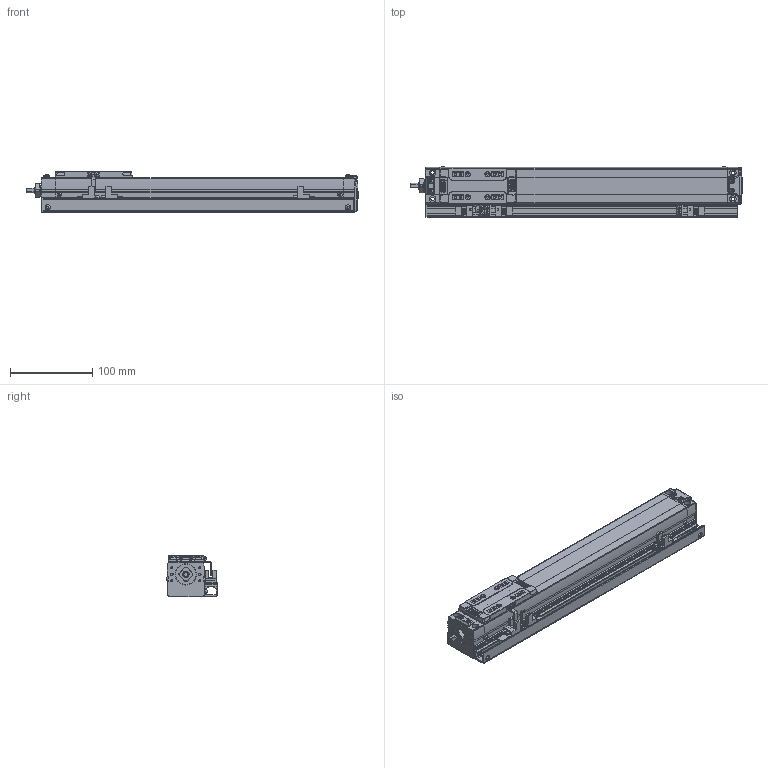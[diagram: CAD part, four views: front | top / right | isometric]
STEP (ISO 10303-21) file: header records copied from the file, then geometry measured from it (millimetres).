
FILE_DESCRIPTION(('STEP AP214'),'1');
FILE_NAME('Z:/Web/3D/SAN45/STP/SAN45ㅁㅁ-250+3SR.stp','2012-06-15T04:51:17',(' '),(' '),'Spatial InterOp 3D',' ',' ');
FILE_SCHEMA(('automotive_design'));
Length unit declared in the file: metre
Products named in the file (51): SAN45__-250; BODY-SAN45; REAR-SAN45; RRCV-SAN45; BHCS M3 x 6L; BHCS M3 X 6L; FRONT-SAN45; SHAFT; RN8 x 0.75; SSFX-SAN45; SLIDE-SAN45; SLCV-IM45; FHCS M3 x 6L; ____81; 3SR; SRL-16x17-380L; - OT; EE-SX674; SBK-SX674-352; HOME; + OT; DOG; SDG-SA45; SCREW M3 x 5L
Assembly tree (50 placements, depth 4):
  ____81
    SAN45__-250
      BODY-SAN45
      REAR-SAN45
        REAR-SAN45
        RRCV-SAN45
        BHCS M3 x 6L
        BHCS M3 X 6L
        BHCS M3 x 6L
        BHCS M3 x 6L
        BHCS M3 x 6L
        BHCS M3 x 6L
      FRONT-SAN45
        FRONT-SAN45
        SHAFT
        RN8 x 0.75
        SSFX-SAN45
        BHCS M3 x 6L
        BHCS M3 x 6L
        BHCS M3 x 6L
        BHCS M3 x 6L
      SLIDE-SAN45
        SLIDE-SAN45
        SLCV-IM45
        FHCS M3 x 6L
        FHCS M3 x 6L
        FHCS M3 x 6L
        FHCS M3 x 6L
    3SR
      SRL-16x17-380L
      BHCS M3 x 6L
      BHCS M3 x 6L
      - OT
        EE-SX674
        BHCS M3 x 6L
        BHCS M3 x 6L
        SBK-SX674-352
      HOME
        EE-SX674
        BHCS M3 x 6L
        BHCS M3 x 6L
        SBK-SX674-352
      + OT
        EE-SX674
        BHCS M3 x 6L
        BHCS M3 x 6L
        SBK-SX674-352
      DOG
        SDG-SA45
        SCREW M3 x 5L
        SCREW M3 x 5L
Bounding box: 404.65 x 62.06 x 50 mm (x, y, z)
Volume: 759518.9 mm3; surface area: 169220.1 mm2
Topology: 41 solids, 41 shells, 1930 faces, 4911 edges, 3162 vertices
Faces by surface type: plane 1239, cylinder 493, cone 76, sphere 52, bspline 42, torus 25, extrusion 3
Full cylindrical faces by diameter (mm): 0.376 x2, 0.47 x1, 1.137 x2, 1.421 x1, 1.665 x4, 2.081 x2, 2.2 x4, 2.5 x19, 3 x6, 3.193 x4, 3.3 x4, 3.4 x4, 3.5 x14, 3.991 x2, 4.2 x8, 4.5 x4, 5 x3, 6 x6, 6.5 x2, 7 x1, 8 x8, 13 x1, 15 x1, 19 x1
Entity records: 76993 total; most frequent: CARTESIAN_POINT 14108, DIRECTION 9703, ORIENTED_EDGE 9250, EDGE_CURVE 4625, VECTOR 3247, LINE 3244, AXIS2_PLACEMENT_3D 3228, VERTEX_POINT 3109
